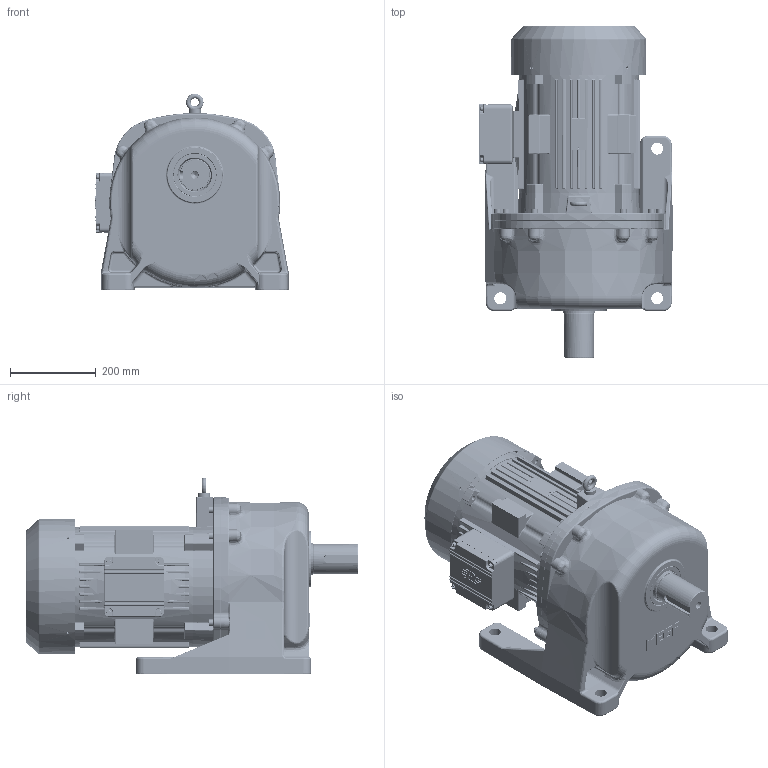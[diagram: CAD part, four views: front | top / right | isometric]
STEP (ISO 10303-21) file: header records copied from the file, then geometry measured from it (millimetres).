
FILE_DESCRIPTION(/* description */ (''),/* implementation_level */ '2;1');
FILE_NAME(/* name */ 'Z:\동력 3D 파일\PML270_11kW_3D.stp',/* time_stamp */ '2021-11-30T17:24:51+09:00',/* author */ ('jaebok'),/* organization */ (''),/* preprocessor_version */ 'ST-DEVELOPER v18.1',/* originating_system */ 'Autodesk Inventor 2022',/* authorisation */ '');
FILE_SCHEMA (('AUTOMOTIVE_DESIGN { 1 0 10303 214 3 1 1 }'));
Length unit declared in the file: millimetre
Products named in the file (1): 부품32
Bounding box: 452.9 x 776.2 x 459.99 mm (x, y, z)
Volume: 18874672.3 mm3; surface area: 2981745.6 mm2
Topology: 11 solids, 20 shells, 6311 faces, 15971 edges, 9632 vertices
Faces by surface type: cylinder 1830, plane 1797, bspline 1530, torus 589, sphere 320, cone 245
Full cylindrical faces by diameter (mm): 3.242 x4, 4.134 x4, 4.917 x9, 5 x13, 6 x4, 6.5 x8, 6.647 x9, 7 x1, 8 x4, 9.5 x4, 10 x21, 12 x9, 13.2 x1, 13.835 x9, 15 x1, 16 x9, 17 x8, 20 x1, 28 x5, 34 x1, 37 x1, 40 x1, 55 x1, 60 x1, 68 x2, 70 x1, 72 x1, 75 x3, 80 x2, 81 x1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
Entity records: 233584 total; most frequent: CARTESIAN_POINT 83517, ORIENTED_EDGE 31406, DIRECTION 27941, EDGE_CURVE 15703, AXIS2_PLACEMENT_3D 10638, VERTEX_POINT 9635, EDGE_LOOP 6848, LINE 6665
